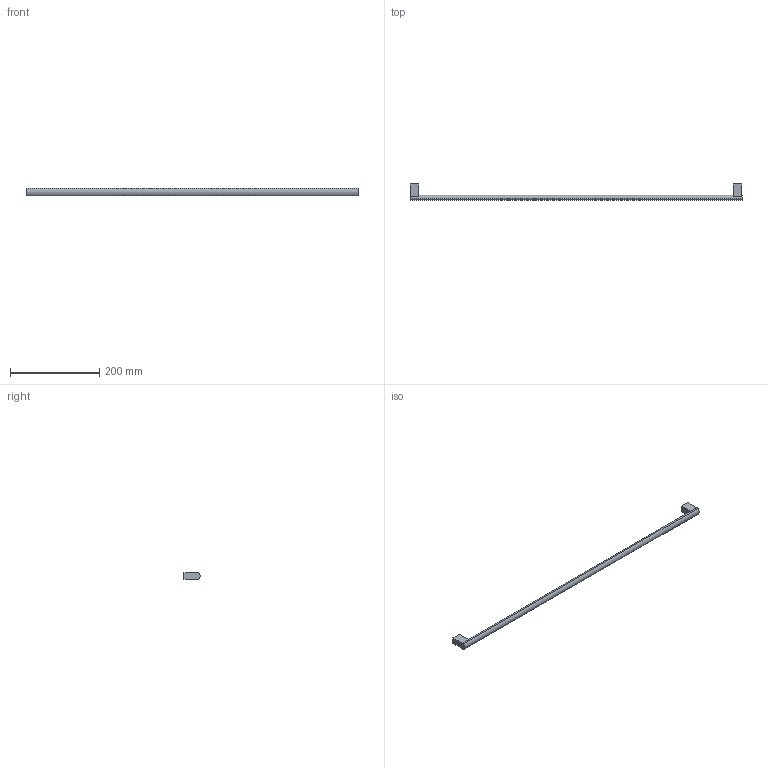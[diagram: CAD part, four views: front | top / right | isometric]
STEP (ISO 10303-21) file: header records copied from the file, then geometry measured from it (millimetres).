
FILE_DESCRIPTION( ( 'STEP AP214' ), '1' );
FILE_NAME( 'D:/Shahbaz D&D/Task/Check and correct handles with 3 drill sockets/Clivia/115363.stp', '2023-02-20T11:11:54', ( '' ), ( '' ), ' ', 'PARTsolutions', ' ' );
FILE_SCHEMA( ( 'AUTOMOTIVE_DESIGN { 1 0 10303 214 1 1 1 1 }' ) );
Length unit declared in the file: millimetre
Products named in the file (1): _115363
Bounding box: 744 x 35.96 x 16 mm (x, y, z)
Volume: 114886.8 mm3; surface area: 36035.4 mm2
Topology: 1 solids, 1 shells, 21 faces, 48 edges, 32 vertices
Faces by surface type: plane 17, cylinder 4
Full cylindrical faces by diameter (mm): 4 x2
Entity records: 768 total; most frequent: DIRECTION 102, CARTESIAN_POINT 100, ORIENTED_EDGE 92, EDGE_CURVE 46, AXIS2_PLACEMENT_3D 34, LINE 34, VECTOR 34, VERTEX_POINT 32
